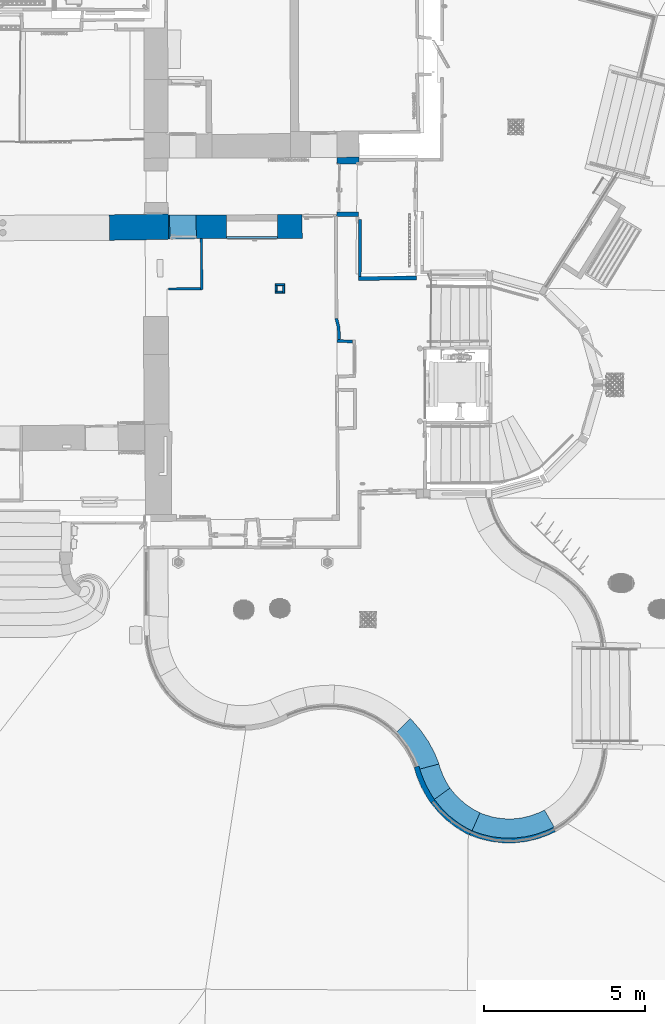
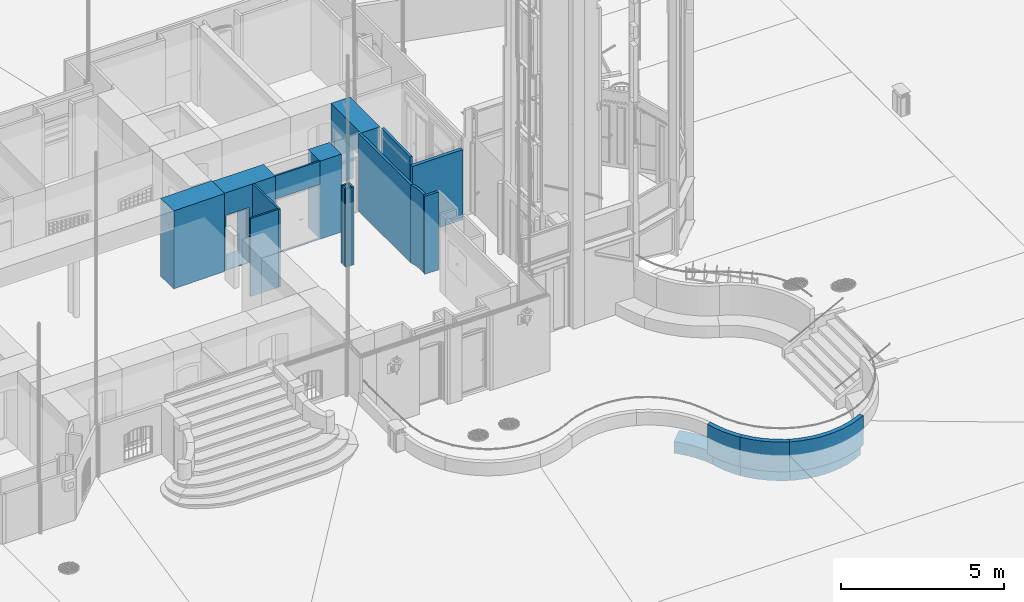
# One storey, part 19 of 133: 22 walls, 3 openings.
"""IFC2X3 building model written with IfcOpenShell, lengths in centimetres."""

from ifc_helpers import new_model, entity, si_unit, converted_unit, direction, frame, origin, origin_with_axes, origin_2d_with_axis, place, context, subcontext, project, spatial, polyline, rectangle, outline, extrude, clip, bounded_halfspace, shape, material, layer, layer_set, layer_usage, type_object, element, save


model = new_model("IFC2X3")

# Units and contexts
model_context = context("Model", 3, precision=0.0001, world=origin(), true_north=direction((0.225632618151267, 0.974212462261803, 0.0)))
body_context = subcontext(model_context, "Body", "Model", "MODEL_VIEW")
footprint_context = subcontext(model_context, "FootPrint", "Model", "MODEL_VIEW")
profile_context = subcontext(model_context, "Profile", "Model", "MODEL_VIEW")
ifc_project = project(units=[si_unit("LENGTHUNIT", "METRE", prefix="CENTI"), si_unit("AREAUNIT", "SQUARE_METRE", prefix="CENTI"), si_unit("VOLUMEUNIT", "CUBIC_METRE", prefix="CENTI"), converted_unit("PLANEANGLEUNIT", "DEGREE", entity("IfcRatioMeasure", 0.0174532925), si_unit("PLANEANGLEUNIT", "RADIAN"), dimensions=[0, 0, 0, 0, 0, 0, 0])], contexts=[model_context])

# Site, building, storey
site_placement = place(None, origin_with_axes())
site = spatial("IfcSite", under=ifc_project, at=site_placement, Name="Default Site", CompositionType="ELEMENT")
building_placement = place(site_placement, origin_with_axes())
building = spatial("IfcBuilding", under=site, at=building_placement, Name="Default Building", CompositionType="ELEMENT")
storey_placement = place(building_placement, frame((0.0, 0.0, -291.400371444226), z_axis=(0.0, 0.0, 1.0), x_axis=(1.0, 0.0, 0.0)))
storey = spatial("IfcBuildingStorey", under=building, at=storey_placement, Name="Rez-de-Jardin", CompositionType="ELEMENT", Elevation=-291.400371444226)

# Walls
ifc_material = material(Name="<aucun>")
ifc_layer_1 = layer(ifc_material, 9.0)
ifc_layer_set_1 = layer_set([ifc_layer_1], Name="default")
ifc_layer_usage_1 = layer_usage(ifc_layer_set_1, "AXIS2", "POSITIVE", -4.5)
wall_type_1 = type_object("IfcWallType", Name="default 90", PredefinedType="NOTDEFINED", material=ifc_layer_set_1)
wall_1_placement = place(storey_placement, frame((899.242467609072, -212.895027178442, -1.94511073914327e-11), z_axis=(0.0, 0.0, 1.0), x_axis=(0.00614640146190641, 0.999981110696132, 0.0)))
element("IfcWallStandardCase", 1, at=wall_1_placement, inside=storey, type_object=wall_type_1, material=ifc_layer_usage_1, Name="Enveloppe 596636", context=body_context, shape_type="Clipping", body=[
    clip(extrude(outline(polyline([(4.44089209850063e-14, 4.50000000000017), (-2.19043911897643e-06, 3.39759069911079), (-0.121663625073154, 3.39684290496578), (-0.00417234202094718, -4.49999999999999), (176.755987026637, -4.49999999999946), (176.755987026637, 3.57130086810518), (176.666007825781, 4.5000000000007), (4.44089209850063e-14, 4.50000000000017)])), frame((0.0, 0.0, 8.88178419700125e-14), z_axis=(0.0, 0.0, 1.0), x_axis=(1.0, 0.0, 0.0)), (0.0, 0.0, 1.0), 291.413221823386), bounded_halfspace(frame((-0.121663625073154, 3.39684290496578, 262.400371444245), z_axis=(0.0, 0.0, -1.0), x_axis=(0.0148766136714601, -0.999889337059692, 0.0)), True, frame((-0.121663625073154, 3.39684290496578, 262.400371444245), z_axis=(0.0, 0.0, 1.0), x_axis=(1.0, 0.0, 0.0)), polyline([(0.0, 0.0), (0.117491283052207, -7.89684290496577), (0.221663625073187, -7.89684290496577), (0.221663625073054, 1.10315709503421), (0.121663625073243, 1.10315709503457), (0.121663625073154, 0.000391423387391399), (0.0, 0.0)]))),
])
ifc_layer_usage_2 = layer_usage(ifc_layer_set_1, "AXIS2", "POSITIVE", -4.5)
wall_2_placement = place(storey_placement, frame((877.122765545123, -414.054299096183, -1.94511073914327e-11), z_axis=(0.0, 0.0, 1.0), x_axis=(-0.999642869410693, 0.0267232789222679, 0.0)))
element("IfcWallStandardCase", 2, at=wall_2_placement, inside=storey, type_object=wall_type_1, material=ifc_layer_usage_2, Name="Enveloppe 594284", context=body_context, shape_type="SweptSolid", body=[
    extrude(outline(polyline([(48.6186648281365, 4.50000000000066), (0.0, 4.49999999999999), (1.77635683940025e-13, -4.49999999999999), (47.5887573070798, -4.49999999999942), (48.5285667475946, 4.09952588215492), (48.6186648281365, 4.50000000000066)])), frame((0.0, 0.0, 4.44089209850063e-14), z_axis=(0.0, 0.0, 1.0), x_axis=(1.0, 0.0, 0.0)), (0.0, 0.0, 1.0), 291.413221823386),
])
ifc_layer_2 = layer(ifc_material, 6.5)
ifc_layer_set_2 = layer_set([ifc_layer_2], Name="default")
ifc_layer_usage_3 = layer_usage(ifc_layer_set_2, "AXIS2", "POSITIVE", -3.25)
wall_type_2 = type_object("IfcWallType", Name="default 65", PredefinedType="NOTDEFINED", material=ifc_layer_set_2)
wall_3_placement = place(storey_placement, frame((305.490270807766, -251.026245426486, -1.94511073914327e-11), z_axis=(0.0, 0.0, 1.0), x_axis=(0.999992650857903, 0.00383382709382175, 0.0)))
element("IfcWallStandardCase", 3, at=wall_3_placement, inside=storey, type_object=wall_type_2, material=ifc_layer_usage_3, Name="Enveloppe 70012", context=body_context, shape_type="SweptSolid", body=[
    extrude(outline(polyline([(0.878167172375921, -3.25000000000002), (100.783624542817, -3.25000000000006), (100.750634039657, 3.24999999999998), (0.909915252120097, 3.24999999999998), (0.878167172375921, -3.25000000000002)])), frame((0.0, 0.0, 4.44089209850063e-14), z_axis=(0.0, 0.0, 1.0), x_axis=(1.0, 0.0, 0.0)), (0.0, 0.0, 1.0), 291.413221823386),
])
ifc_layer_3 = layer(ifc_material, 12.0)
ifc_layer_set_3 = layer_set([ifc_layer_3], Name="default")
ifc_layer_usage_4 = layer_usage(ifc_layer_set_3, "AXIS2", "POSITIVE", -6.0)
wall_type_3 = type_object("IfcWallType", Name="default 120", PredefinedType="NOTDEFINED", material=ifc_layer_set_3)
wall_4_placement = place(storey_placement, frame((904.897593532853, -218.917000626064, -1.94511073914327e-11), z_axis=(0.0, 0.0, 1.0), x_axis=(0.999961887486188, 0.00873061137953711, 0.0)))
element("IfcWallStandardCase", 4, at=wall_4_placement, inside=storey, type_object=wall_type_3, material=ifc_layer_usage_4, Name="Enveloppe 777991", context=body_context, shape_type="SweptSolid", body=[
    extrude(outline(polyline([(-9.14053714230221, -6.00000000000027), (170.704239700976, -6.00000000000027), (170.904387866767, 5.99999999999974), (-9.00061182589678, 6.00000000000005), (-9.14053714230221, -6.00000000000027)])), origin_with_axes(), (0.0, 0.0, 1.0), 262.400371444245),
])

# Wall, opening
ifc_layer_4 = layer(ifc_material, 6.0)
ifc_layer_set_4 = layer_set([ifc_layer_4], Name="default")
ifc_layer_usage_5 = layer_usage(ifc_layer_set_4, "AXIS2", "POSITIVE", -3.0)
wall_type_4 = type_object("IfcWallType", Name="default 60", PredefinedType="NOTDEFINED", material=ifc_layer_set_4)
wall_5_placement = place(storey_placement, frame((486.479451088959, -92.3212033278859, -1.94511073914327e-11), z_axis=(0.0, 0.0, 1.0), x_axis=(0.999985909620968, 0.00530853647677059, 0.0)))
wall_5 = element("IfcWallStandardCase", 5, at=wall_5_placement, inside=storey, type_object=wall_type_4, material=ifc_layer_usage_5, Name="Enveloppe 73902", context=body_context, shape_type="SweptSolid", body=[
    extrude(rectangle(XDim=158.138354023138, YDim=6.0, at=origin_2d_with_axis()), frame((79.171569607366, -1.06581410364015e-12, 8.88178419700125e-14), z_axis=(0.0, 0.0, 1.0), x_axis=(1.0, -1.3459719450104e-14, 0.0)), (0.0, 0.0, 1.0), 291.413221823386),
])
opening_1_placement = place(wall_5_placement, frame((0.208060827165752, -1.4210854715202e-14, 2.51091569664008), z_axis=(0.0, 0.0, 1.0), x_axis=(-1.0, 1.35056896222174e-14, 0.0)))
cartesian_point_1 = entity("IfcCartesianPoint", [0.0, 0.0, 203.0])
cartesian_point_2 = entity("IfcCartesianPoint", [-158.0, -3.0])
element("IfcOpeningElement", 6, at=opening_1_placement, cuts=wall_5, Name="4294966359_11", ObjectType="Opening", shapes=[
    shape(body_context, "Body", "SweptSolid", [extrude(outline(polyline([(0.0, 203.0), (0.0, 4.44089209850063e-14), (158.0, 4.44089209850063e-14), (158.0, 203.0), (0.0, 203.0)])), frame((0.0, -13.0, 0.0), z_axis=(0.0, 1.0, 0.0), x_axis=(-1.0, 0.0, 0.0)), (0.0, 0.0, 1.0), 26.0)]),
    shape(profile_context, "Profile", "GeometricCurveSet", [entity("IfcGeometricCurveSet", [entity("IfcPolyline", [cartesian_point_1, entity("IfcCartesianPoint", [0.0, 0.0, 4.44089209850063e-14]), entity("IfcCartesianPoint", [-158.0, 0.0, 4.44089209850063e-14]), entity("IfcCartesianPoint", [-158.0, 0.0, 203.0]), cartesian_point_1])])]),
    shape(footprint_context, "FootPrint", "GeometricCurveSet", [entity("IfcGeometricCurveSet", [entity("IfcPolyline", [cartesian_point_2, entity("IfcCartesianPoint", [0.0, -3.0]), entity("IfcCartesianPoint", [-8.88178419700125e-14, 2.99999999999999]), entity("IfcCartesianPoint", [-158.0, 2.99999999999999]), cartesian_point_2])])]),
])

# Walls
ifc_layer_usage_6 = layer_usage(ifc_layer_set_4, "AXIS2", "POSITIVE", -3.0)
wall_type_5 = type_object("IfcWallType", Name="default 60", PredefinedType="NOTDEFINED", material=ifc_layer_set_4)
wall_6_placement = place(storey_placement, frame((637.120466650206, -238.301498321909, -1.94511073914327e-11), z_axis=(0.0, 0.0, 1.0), x_axis=(0.999987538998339, 0.00499217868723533, 0.0)))
element("IfcWallStandardCase", 7, at=wall_6_placement, inside=storey, type_object=wall_type_5, material=ifc_layer_usage_6, Name="Enveloppe 73929", context=body_context, shape_type="SweptSolid", body=[
    extrude(outline(polyline([(-0.0633761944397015, -3.00000000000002), (29.3517059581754, -3.00000000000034), (29.3961979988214, 2.99999999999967), (0.0, 3.00000000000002), (-0.0633761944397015, -3.00000000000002)])), frame((0.0, 0.0, 8.88178419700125e-14), z_axis=(0.0, 0.0, 1.0), x_axis=(1.0, 0.0, 0.0)), (0.0, 0.0, 1.0), 291.413221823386),
])
ifc_layer_usage_7 = layer_usage(ifc_layer_set_4, "AXIS2", "POSITIVE", -3.0)
wall_7_placement = place(storey_placement, frame((639.943668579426, -264.361373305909, -1.94511073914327e-11), z_axis=(0.0, 0.0, 1.0), x_axis=(0.00557007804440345, 0.999984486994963, 0.0)))
element("IfcWallStandardCase", 8, at=wall_7_placement, inside=storey, type_object=wall_type_5, material=ifc_layer_usage_7, Name="Enveloppe 73989", context=body_context, shape_type="SweptSolid", body=[
    extrude(outline(polyline([(6.00002268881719, 3.0000000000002), (5.98352219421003, -2.99999999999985), (23.1066194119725, -2.99999999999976), (23.0432432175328, 3.0000000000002), (6.00002268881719, 3.0000000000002)])), frame((0.0, 0.0, 8.88178419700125e-14), z_axis=(0.0, 0.0, 1.0), x_axis=(1.0, 0.0, 0.0)), (0.0, 0.0, 1.0), 291.413221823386),
])
ifc_layer_usage_8 = layer_usage(ifc_layer_set_4, "AXIS2", "POSITIVE", -3.0)
wall_8_placement = place(storey_placement, frame((663.430008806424, -264.582730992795, -1.94511073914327e-11), z_axis=(0.0, 0.0, 1.0), x_axis=(0.00242300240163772, 0.999997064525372, 0.0)))
element("IfcWallStandardCase", 9, at=wall_8_placement, inside=storey, type_object=wall_type_5, material=ifc_layer_usage_8, Name="Enveloppe 73951", context=body_context, shape_type="SweptSolid", body=[
    extrude(outline(polyline([(0.0353834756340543, 2.99999999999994), (4.44089209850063e-14, -2.99999999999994), (23.4351368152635, -3.00000000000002), (23.3906447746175, 2.99999999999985), (0.0353834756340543, 2.99999999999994)])), frame((0.0, 0.0, 8.88178419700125e-14), z_axis=(0.0, 0.0, 1.0), x_axis=(1.0, 0.0, 0.0)), (0.0, 0.0, 1.0), 291.413221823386),
])
ifc_layer_usage_9 = layer_usage(ifc_layer_set_4, "AXIS2", "POSITIVE", -3.0)
wall_9_placement = place(storey_placement, frame((666.454960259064, -261.590103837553, -1.94511073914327e-11), z_axis=(0.0, 0.0, 1.0), x_axis=(-0.999965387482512, 0.00832008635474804, 0.0)))
element("IfcWallStandardCase", 10, at=wall_9_placement, inside=storey, type_object=wall_type_5, material=ifc_layer_usage_9, Name="Enveloppe 73967", context=body_context, shape_type="SweptSolid", body=[
    extrude(outline(polyline([(29.487305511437, 3.00000000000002), (6.00010433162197, 3.00000000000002), (6.03548780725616, -2.99999999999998), (29.5038060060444, -2.99999999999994), (29.487305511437, 3.00000000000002)])), frame((0.0, 0.0, 8.88178419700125e-14), z_axis=(0.0, 0.0, 1.0), x_axis=(1.0, 0.0, 0.0)), (0.0, 0.0, 1.0), 291.413221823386),
])
ifc_layer_5 = layer(ifc_material, 79.0)
ifc_layer_set_5 = layer_set([ifc_layer_5], Name="default")
ifc_layer_usage_10 = layer_usage(ifc_layer_set_5, "AXIS2", "POSITIVE", -39.5)
wall_type_6 = type_object("IfcWallType", Name="default 790", PredefinedType="NOTDEFINED", material=ifc_layer_set_5)
wall_10_placement = place(storey_placement, frame((123.556476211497, -61.2303838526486, -1.94511073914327e-11), z_axis=(0.0, 0.0, 1.0), x_axis=(0.999878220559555, 0.0156058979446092, 0.0)))
element("IfcWallStandardCase", 11, at=wall_10_placement, inside=storey, type_object=wall_type_6, material=ifc_layer_usage_10, Name="Enveloppe 73241", context=body_context, shape_type="Clipping", body=[
    clip(clip(extrude(outline(polyline([(2.22044604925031e-14, 39.5), (3.88099086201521e-07, -39.4997924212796), (-0.552160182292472, -39.4999998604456), (181.526854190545, -39.5), (181.547439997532, -37.888517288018), (182.092780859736, -37.8941333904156), (182.849668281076, 35.601969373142), (182.897127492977, 37.0122652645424), (182.880733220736, 39.5), (2.22044604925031e-14, 39.5)])), frame((0.0, 0.0, 8.88178419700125e-14), z_axis=(0.0, 0.0, 1.0), x_axis=(1.0, 0.0, 0.0)), (0.0, 0.0, 1.0), 291.413221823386), bounded_halfspace(frame((3.88099086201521e-07, -39.4997924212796, 223.60000000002), z_axis=(0.0, 0.0, 1.0), x_axis=(0.999998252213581, -0.00186964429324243, 0.0)), True, frame((3.88099086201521e-07, -39.4997924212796, 223.60000000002), z_axis=(0.0, 0.0, 1.0), x_axis=(1.0, 0.0, 0.0)), polyline([(-0.55214122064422, 0.0010323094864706), (0.111025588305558, -0.000207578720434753), (-0.55214122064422, 0.0010323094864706)]))), bounded_halfspace(frame((0.111025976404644, -39.5, 223.60000000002), z_axis=(0.0, 0.0, -1.0), x_axis=(5.62050406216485e-16, 1.0, 0.0)), True, frame((0.111025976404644, -39.5, 223.60000000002), z_axis=(0.0, 0.0, 1.0), x_axis=(1.0, 0.0, 0.0)), polyline([(-0.111025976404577, 2.22044604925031e-14), (0.0, -2.22044604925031e-14), (4.44089209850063e-14, 79.0000000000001), (-0.111025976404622, 79.0000000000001), (-0.111025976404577, 2.22044604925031e-14)]))),
])
ifc_layer_6 = layer(ifc_material, 7.0)
ifc_layer_set_6 = layer_set([ifc_layer_6], Name="default")
ifc_layer_usage_11 = layer_usage(ifc_layer_set_6, "AXIS2", "POSITIVE", -3.5)
wall_type_7 = type_object("IfcWallType", Name="default 70", PredefinedType="NOTDEFINED", material=ifc_layer_set_6)
wall_11_placement = place(storey_placement, frame((409.727551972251, -247.357300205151, -1.94511073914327e-11), z_axis=(0.0, 0.0, 1.0), x_axis=(-0.00890913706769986, 0.99996031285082, 0.0)))
element("IfcWallStandardCase", 12, at=wall_11_placement, inside=storey, type_object=wall_type_7, material=ifc_layer_usage_11, Name="Enveloppe 69994", context=body_context, shape_type="SweptSolid", body=[
    extrude(outline(polyline([(151.640057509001, 3.49999999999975), (-6.50161039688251, 3.50000000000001), (-6.53713863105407, -3.50000000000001), (151.614852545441, -3.50000000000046), (151.640057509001, 3.49999999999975)])), frame((0.0, 0.0, 1.33226762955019e-13), z_axis=(0.0, 0.0, 1.0), x_axis=(1.0, 0.0, 0.0)), (0.0, 0.0, 1.0), 291.413221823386),
])

# Wall, opening
ifc_layer_7 = layer(ifc_material, 68.0)
ifc_layer_set_7 = layer_set([ifc_layer_7], Name="default")
ifc_layer_usage_12 = layer_usage(ifc_layer_set_7, "AXIS2", "POSITIVE", -34.0)
wall_type_8 = type_object("IfcWallType", Name="default 680", PredefinedType="NOTDEFINED", material=ifc_layer_set_7)
wall_12_placement = place(storey_placement, frame((861.888523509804, -26.3205741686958, -1.94511073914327e-11), z_axis=(0.0, 0.0, 1.0), x_axis=(0.00614640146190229, 0.999981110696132, 0.0)))
wall_12 = element("IfcWallStandardCase", 13, at=wall_12_placement, inside=storey, type_object=wall_type_8, material=ifc_layer_usage_12, Name="Enveloppe 67417", context=body_context, shape_type="SweptSolid", body=[
    extrude(outline(polyline([(-0.088699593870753, 40.8229167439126), (-316.423120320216, 37.7051273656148), (-316.334420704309, 28.7055644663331), (-1.42824721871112, 31.8092770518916), (-1.14808462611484, 3.3836649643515), (-7.35522753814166e-12, -34.0000000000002), (179.24282798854, -33.9999999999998), (183.540973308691, -33.9320630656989), (182.549746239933, 34.0), (-0.0238742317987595, 33.9999999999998), (-0.088699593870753, 40.8229167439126)])), frame((0.0, 0.0, 1.33226762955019e-13), z_axis=(0.0, 0.0, 1.0), x_axis=(1.0, 0.0, 0.0)), (0.0, 0.0, 1.0), 291.413221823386),
])
opening_2_placement = place(wall_12_placement, frame((12.9036837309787, 2.27373675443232e-13, 1.93627336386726e-11), z_axis=(0.0, 0.0, 1.0), x_axis=(-1.0, 1.12757025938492e-17, 0.0)))
cartesian_point_3 = entity("IfcCartesianPoint", [-2.35922392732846e-14, 1.77635683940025e-13, 203.0])
cartesian_point_4 = entity("IfcCartesianPoint", [-149.784441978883, -33.9999999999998])
element("IfcOpeningElement", 14, at=opening_2_placement, cuts=wall_12, Name="4294966360_11", ObjectType="Opening", shapes=[
    shape(body_context, "Body", "SweptSolid", [extrude(outline(polyline([(2.77555756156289e-14, 203.0), (5.55111512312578e-15, 4.44089209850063e-14), (149.784441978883, 4.44089209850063e-14), (149.784441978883, 203.0), (2.77555756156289e-14, 203.0)])), frame((0.0, -44.0, 0.0), z_axis=(0.0, 1.0, 0.0), x_axis=(-1.0, 0.0, 0.0)), (0.0, 0.0, 1.0), 88.0)]),
    shape(profile_context, "Profile", "GeometricCurveSet", [entity("IfcGeometricCurveSet", [entity("IfcPolyline", [cartesian_point_3, entity("IfcCartesianPoint", [-1.38777878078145e-15, 1.77635683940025e-13, 4.44089209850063e-14]), entity("IfcCartesianPoint", [-149.784441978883, 0.0, 4.44089209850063e-14]), entity("IfcCartesianPoint", [-149.784441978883, 0.0, 203.0]), cartesian_point_3])])]),
    shape(footprint_context, "FootPrint", "GeometricCurveSet", [entity("IfcGeometricCurveSet", [entity("IfcPolyline", [cartesian_point_4, entity("IfcCartesianPoint", [-5.55111512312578e-15, -34.0]), entity("IfcCartesianPoint", [0.0, 34.0000000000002]), entity("IfcCartesianPoint", [-149.784441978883, 34.0000000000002]), cartesian_point_4])])]),
])

# Wall
ifc_layer_8 = layer(ifc_material, 73.5)
ifc_layer_set_8 = layer_set([ifc_layer_8], Name="default")
ifc_layer_usage_13 = layer_usage(ifc_layer_set_8, "AXIS2", "POSITIVE", -36.75)
wall_type_9 = type_object("IfcWallType", Name="default 735", PredefinedType="NOTDEFINED", material=ifc_layer_set_8)
wall_13_placement = place(storey_placement, frame((644.582822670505, -58.0005299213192, -1.94511073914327e-11), z_axis=(0.0, 0.0, 1.0), x_axis=(0.999994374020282, 0.00335438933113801, 0.0)))
element("IfcWallStandardCase", 15, at=wall_13_placement, inside=storey, type_object=wall_type_9, material=ifc_layer_usage_13, Name="Enveloppe 57428", context=body_context, shape_type="SweptSolid", body=[
    extrude(outline(polyline([(-1.77635683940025e-13, 36.75), (-1.77635683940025e-13, 17.750000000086), (0.0942510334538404, -30.48076631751), (0.0169763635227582, -30.4805071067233), (0.028699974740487, -36.4809058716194), (0.128699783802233, -36.4807104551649), (0.129054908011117, -36.75), (76.3723466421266, -36.7499999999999), (76.3723466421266, 36.7500000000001), (-1.77635683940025e-13, 36.75)])), frame((0.0, 0.0, 8.88178419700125e-14), z_axis=(0.0, 0.0, 1.0), x_axis=(1.0, 0.0, 0.0)), (0.0, 0.0, 1.0), 291.413221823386),
])

# Wall, opening
ifc_layer_usage_14 = layer_usage(ifc_layer_set_8, "AXIS2", "POSITIVE", -36.75)
wall_14_placement = place(storey_placement, frame((304.28747591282, -59.5379141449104, -1.94511073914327e-11), z_axis=(0.0, 0.0, 1.0), x_axis=(0.999985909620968, 0.00530853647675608, 0.0)))
wall_14 = element("IfcWallStandardCase", 16, at=wall_14_placement, inside=storey, type_object=wall_type_9, material=ifc_layer_usage_14, Name="Enveloppe 53966", context=body_context, shape_type="SweptSolid", body=[
    extrude(outline(polyline([(100.130906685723, 36.7500000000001), (1.73591372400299, 36.75), (1.73591372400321, -36.75), (100.130914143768, -36.7485951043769), (182.117769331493, -36.7499999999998), (182.117769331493, -30.7499999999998), (182.017769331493, -30.7499999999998), (182.110234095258, 17.7904162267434), (182.218486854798, 17.7898415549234), (182.255538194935, 36.7500000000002), (100.130906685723, 36.7500000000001)])), frame((0.0, 0.0, 8.88178419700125e-14), z_axis=(0.0, 0.0, 1.0), x_axis=(1.0, 0.0, 0.0)), (0.0, 0.0, 1.0), 291.413221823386),
])
opening_3_placement = place(wall_14_placement, frame((6.18092754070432, -7.105427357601e-15, 2.00000000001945), z_axis=(0.0, 0.0, 1.0), x_axis=(1.0, 1.08246744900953e-15, 0.0)))
cartesian_point_5 = entity("IfcCartesianPoint", [4.44089209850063e-14, 1.11022302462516e-14, 205.0])
cartesian_point_6 = entity("IfcCartesianPoint", [82.0593271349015, 36.75])
element("IfcOpeningElement", 17, at=opening_3_placement, cuts=wall_14, Name="4294966321_11", ObjectType="Opening", shapes=[
    shape(body_context, "Body", "SweptSolid", [extrude(outline(polyline([(0.0, 205.0), (-4.44089209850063e-14, 0.0), (82.0593271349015, 0.0), (82.0593271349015, 205.0), (0.0, 205.0)])), frame((0.0, 46.75, 0.0), z_axis=(0.0, -1.0, 0.0), x_axis=(1.0, 0.0, 0.0)), (0.0, 0.0, 1.0), 93.5)]),
    shape(profile_context, "Profile", "GeometricCurveSet", [entity("IfcGeometricCurveSet", [entity("IfcPolyline", [cartesian_point_5, entity("IfcCartesianPoint", [0.0, 1.11022302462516e-14, 0.0]), entity("IfcCartesianPoint", [82.0593271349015, 2.22044604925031e-14, 0.0]), entity("IfcCartesianPoint", [82.0593271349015, 2.22044604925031e-14, 205.0]), cartesian_point_5])])]),
    shape(footprint_context, "FootPrint", "GeometricCurveSet", [entity("IfcGeometricCurveSet", [entity("IfcPolyline", [cartesian_point_6, entity("IfcCartesianPoint", [-4.44089209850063e-14, 36.75]), entity("IfcCartesianPoint", [0.0, -36.75]), entity("IfcCartesianPoint", [82.0593271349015, -36.75]), cartesian_point_6])])]),
])

# Walls
ifc_layer_9 = layer(ifc_material, 15.6)
ifc_layer_set_9 = layer_set([ifc_layer_9], Name="default")
ifc_layer_usage_15 = layer_usage(ifc_layer_set_9, "AXIS2", "POSITIVE", -7.8)
wall_type_10 = type_object("IfcWallType", Name="default 156", PredefinedType="NOTDEFINED", material=ifc_layer_set_9)
wall_15_placement = place(storey_placement, frame((1120.77625410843, -1832.56961370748, 43.7), z_axis=(0.0, 0.0, 1.0), x_axis=(-0.563369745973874, 0.826204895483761, 0.0)))
element("IfcWallStandardCase", 18, at=wall_15_placement, inside=storey, type_object=wall_type_10, material=ifc_layer_usage_15, Name="Enveloppe courbe 282714", context=body_context, shape_type="SweptSolid", body=[
    extrude(outline(polyline([(110.971776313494, -11.5337375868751), (85.2215342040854, -3.42223480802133), (49.0838191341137, 4.12019205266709), (12.3288465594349, 7.56905338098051), (4.57589521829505e-10, 7.79999999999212), (-9.02885282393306, 7.46243603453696), (-8.57977357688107, -7.93086219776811), (4.35917968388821e-10, -7.80000000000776), (11.7446064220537, -8.02000250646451), (46.7578321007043, -11.3054289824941), (81.1830509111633, -18.4904348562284), (107.082172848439, -26.6488672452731), (107.227865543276, -26.6759170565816), (110.971776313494, -11.5337375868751)])), frame((0.0, 0.0, 8.88178419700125e-14), z_axis=(0.0, 0.0, 1.0), x_axis=(1.0, 0.0, 0.0)), (0.0, 0.0, 1.0), 111.0),
])
ifc_layer_10 = layer(ifc_material, 15.4)
ifc_layer_set_10 = layer_set([ifc_layer_10], Name="default")
ifc_layer_usage_16 = layer_usage(ifc_layer_set_10, "AXIS2", "POSITIVE", -7.7)
wall_type_11 = type_object("IfcWallType", Name="default 154", PredefinedType="NOTDEFINED", material=ifc_layer_set_10)
wall_16_placement = place(storey_placement, frame((1241.28494704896, -1936.27103958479, 43.7), z_axis=(0.0, 0.0, 1.0), x_axis=(-0.900161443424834, 0.43555639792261, 0.0)))
element("IfcWallStandardCase", 19, at=wall_16_placement, inside=storey, type_object=wall_type_11, material=ifc_layer_usage_16, Name="Enveloppe courbe 279892", context=body_context, shape_type="SweptSolid", body=[
    extrude(outline(polyline([(149.536059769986, -29.8904662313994), (149.344006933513, -29.7839381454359), (116.593474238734, -14.5770827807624), (82.3229673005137, -3.20262912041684), (46.979254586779, 4.19113943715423), (11.0230954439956, 7.50783381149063), (2.81542102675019, 7.65091862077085), (0.672216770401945, 7.34629326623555), (-0.717577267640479, 7.28282626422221), (-1.21119114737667e-08, -7.6999999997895), (10.4863205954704, -7.8828085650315), (44.6915775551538, -11.0379949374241), (78.3142114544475, -18.0717204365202), (110.915899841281, -28.8922896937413), (142.071629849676, -43.3586400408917), (142.254330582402, -43.4599806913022), (149.536059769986, -29.8904662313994)])), frame((0.0, 0.0, 8.88178419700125e-14), z_axis=(0.0, 0.0, 1.0), x_axis=(1.0, 0.0, 0.0)), (0.0, 0.0, 1.0), 111.0),
])
ifc_layer_11 = layer(ifc_material, 15.0)
ifc_layer_set_11 = layer_set([ifc_layer_11], Name="default")
ifc_layer_usage_17 = layer_usage(ifc_layer_set_11, "AXIS2", "POSITIVE", -7.5)
wall_type_12 = type_object("IfcWallType", Name="default 150", PredefinedType="NOTDEFINED", material=ifc_layer_set_11)
wall_17_placement = place(storey_placement, frame((1241.6987661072, -1936.23955042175, 43.7), z_axis=(0.0, 0.0, 1.0), x_axis=(0.919967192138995, -0.391995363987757, 0.0)))
element("IfcWallStandardCase", 20, at=wall_17_placement, inside=storey, type_object=wall_type_12, material=ifc_layer_usage_17, Name="Enveloppe courbe 278754", context=body_context, shape_type="SweptSolid", body=[
    extrude(outline(polyline([(-1.48670409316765e-08, -7.49999999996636), (34.9624132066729, -5.54161046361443), (70.8432587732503, 0.62086816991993), (105.766070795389, 10.9071902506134), (139.25857815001, 25.1782509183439), (170.867852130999, 43.2410585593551), (200.166431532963, 64.8513446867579), (226.758103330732, 89.7168672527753), (241.29434801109, 106.099001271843), (229.734423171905, 115.657561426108), (215.893350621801, 100.058876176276), (190.575776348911, 76.3847454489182), (162.680991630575, 55.80988170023), (132.586225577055, 38.6125246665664), (100.698458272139, 25.0252391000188), (67.4489170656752, 15.2317697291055), (33.2872449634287, 9.36455642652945), (-1.4154721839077e-08, 7.49999999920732), (-1.48670409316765e-08, -7.49999999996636)])), frame((0.0, 0.0, 4.44089209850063e-14), z_axis=(0.0, 0.0, 1.0), x_axis=(1.0, 0.0, 0.0)), (0.0, 0.0, 1.0), 111.0),
])
ifc_layer_12 = layer(ifc_material, 62.0)
ifc_layer_set_12 = layer_set([ifc_layer_12], Name="default")
ifc_layer_usage_18 = layer_usage(ifc_layer_set_12, "AXIS2", "POSITIVE", -31.0)
wall_type_13 = type_object("IfcWallType", Name="default 620", PredefinedType="NOTDEFINED", material=ifc_layer_set_12)
wall_18_placement = place(storey_placement, frame((1114.29712992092, -1729.76884583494, 0.0), z_axis=(0.0, 0.0, 1.0), x_axis=(-0.341445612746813, 0.939901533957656, 0.0)))
element("IfcWallStandardCase", 21, at=wall_18_placement, inside=storey, type_object=wall_type_13, material=ifc_layer_usage_18, Name="Enveloppe courbe 233227", context=body_context, shape_type="SweptSolid", body=[
    extrude(outline(polyline([(131.861409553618, 61.1542254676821), (125.659198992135, 57.9912512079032), (94.2030398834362, 45.8611134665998), (61.6033834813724, 37.2650335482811), (28.2559454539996, 32.3073562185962), (1.24915742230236, 31.0577964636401), (-4.30995254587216, -30.6648177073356), (0.0823511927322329, -30.9961897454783), (33.9809660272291, -29.4277564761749), (74.0850269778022, -23.4655894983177), (113.289796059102, -13.1278324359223), (151.119380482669, 1.46002834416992), (158.578239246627, 5.26386216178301), (131.861409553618, 61.1542254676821)])), frame((0.0, 0.0, -4.44089209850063e-14), z_axis=(0.0, 0.0, 1.0), x_axis=(1.0, 0.0, 0.0)), (0.0, 0.0, 1.0), 43.7),
])
ifc_layer_usage_19 = layer_usage(ifc_layer_set_12, "AXIS2", "POSITIVE", -31.0)
wall_19_placement = place(storey_placement, frame((1259.16709839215, -1903.0096191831, 0.0), z_axis=(0.0, 0.0, 1.0), x_axis=(0.915416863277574, -0.402507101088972, 0.0)))
element("IfcWallStandardCase", 22, at=wall_19_placement, inside=storey, type_object=wall_type_13, material=ifc_layer_usage_19, Name="Enveloppe courbe 234423", context=body_context, shape_type="SweptSolid", body=[
    extrude(outline(polyline([(-1.24344978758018e-11, -30.9999999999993), (17.7231836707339, -30.4537207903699), (54.3075134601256, -25.8291965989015), (90.0001153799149, -16.5643394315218), (124.214917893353, -2.81127798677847), (156.39011488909, 15.2041628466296), (185.997390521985, 37.1861700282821), (212.550594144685, 62.7737996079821), (228.86055863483, 82.3435933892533), (229.104888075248, 82.6957340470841), (179.354513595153, 119.68561546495), (166.757203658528, 104.570514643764), (145.924808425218, 84.4956634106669), (122.696331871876, 67.2496140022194), (97.4531849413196, 53.1155460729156), (70.6098594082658, 42.3255406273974), (42.607121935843, 35.0567692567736), (13.9047766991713, 31.4285849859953), (-9.59232693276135e-12, 31.0), (-1.24344978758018e-11, -30.9999999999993)])), frame((0.0, 0.0, -4.44089209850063e-14), z_axis=(0.0, 0.0, 1.0), x_axis=(1.0, 0.0, 0.0)), (0.0, 0.0, 1.0), 43.7),
])
ifc_layer_usage_20 = layer_usage(ifc_layer_set_12, "AXIS2", "POSITIVE", -31.0)
wall_20_placement = place(storey_placement, frame((1258.94725658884, -1902.93075590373, 0.0), z_axis=(0.0, 0.0, 1.0), x_axis=(-0.907865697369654, 0.419261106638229, 0.0)))
element("IfcWallStandardCase", 23, at=wall_20_placement, inside=storey, type_object=wall_type_13, material=ifc_layer_usage_20, Name="Enveloppe courbe 234230", context=body_context, shape_type="SweptSolid", body=[
    extrude(outline(polyline([(147.22402364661, -7.69398468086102), (133.082572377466, -0.200174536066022), (99.1117951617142, 14.1210838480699), (63.6385841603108, 24.1591836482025), (27.2006770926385, 29.7619575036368), (1.2351250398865, 30.9437831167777), (-0.80231634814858, 30.974191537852), (0.337014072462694, -31.015339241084), (21.5684681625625, -31.9816917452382), (50.4614929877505, -36.4243476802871), (78.5895730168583, -44.3839449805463), (105.52631522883, -55.7398242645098), (116.73961850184, -61.6819559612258), (121.67545554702, -64.7006404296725), (116.770036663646, -61.6280853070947), (147.22402364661, -7.69398468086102)])), origin_with_axes(), (0.0, 0.0, 1.0), 43.7),
])
ifc_layer_usage_21 = layer_usage(ifc_layer_set_12, "AXIS2", "POSITIVE", -31.0)
wall_21_placement = place(storey_placement, frame((1153.27735505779, -1815.65980709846, 0.0), z_axis=(0.0, 0.0, 1.0), x_axis=(-0.566933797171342, 0.823763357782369, 0.0)))
element("IfcWallStandardCase", 24, at=wall_21_placement, inside=storey, type_object=wall_type_13, material=ifc_layer_usage_21, Name="Enveloppe courbe 233687", context=body_context, shape_type="SweptSolid", body=[
    extrude(outline(polyline([(101.875889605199, 13.160490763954), (87.7638161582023, 17.9700184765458), (51.5773985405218, 26.5642904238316), (13.9750312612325, 30.7165548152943), (-1.249969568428, 30.9222309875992), (0.0731514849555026, -31.0017698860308), (5.85969865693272, -31.1417742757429), (10.9766304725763, -31.2108994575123), (40.9915651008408, -34.5253169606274), (69.751020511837, -41.3556858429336), (80.9667078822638, -45.1780978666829), (101.875889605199, 13.160490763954)])), origin_with_axes(), (0.0, 0.0, 1.0), 43.7),
])
ifc_layer_usage_22 = layer_usage(ifc_layer_set_1, "AXIS2", "POSITIVE", -4.5)
wall_type_14 = type_object("IfcWallType", Name="default 90", PredefinedType="NOTDEFINED", material=ifc_layer_set_1)
wall_22_placement = place(storey_placement, frame((834.14109381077, -408.84571078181, 7.46069872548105e-12), z_axis=(0.0, 0.0, 1.0), x_axis=(0.107127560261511, 0.994245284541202, 0.0)))
element("IfcWallStandardCase", 25, at=wall_22_placement, inside=storey, type_object=wall_type_14, material=ifc_layer_usage_22, Name="Enveloppe courbe 595254", context=body_context, shape_type="SweptSolid", body=[
    extrude(outline(polyline([(63.4143496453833, 18.7987200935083), (62.677080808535, 18.4509202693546), (39.7964115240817, 9.95972460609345), (15.8301998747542, 5.3503721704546), (0.0794582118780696, 4.50426836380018), (0.803355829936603, -4.45684505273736), (16.7943479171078, -3.59783539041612), (42.2202364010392, 1.29225248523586), (65.6802940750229, 9.99560239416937), (64.4917825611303, 18.9188554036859), (63.4143496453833, 18.7987200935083)])), frame((0.0, 0.0, -8.88178419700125e-14), z_axis=(0.0, 0.0, 1.0), x_axis=(1.0, 0.0, 0.0)), (0.0, 0.0, 1.0), 291.413221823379),
])

save(model, "model.ifc")
